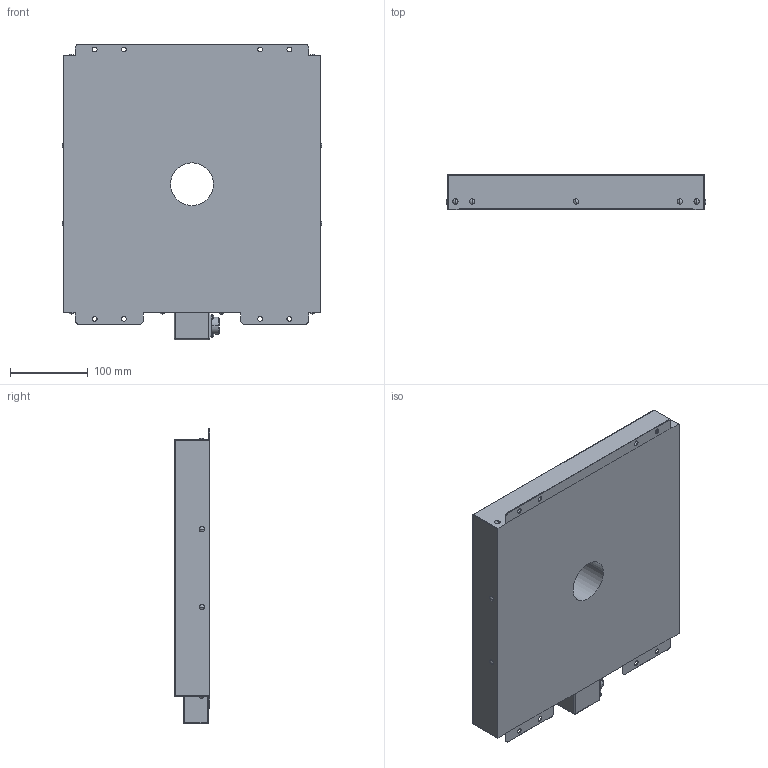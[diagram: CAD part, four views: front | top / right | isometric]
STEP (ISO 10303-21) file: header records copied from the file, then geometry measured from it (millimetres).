
FILE_DESCRIPTION (( 'STEP AP214' ), '1' );
FILE_NAME ('HDSBPA-300x300_-24-55D.STEP', '2023-06-01T06:23:14', ( '' ), ( '' ), 'SwSTEP 2.0', 'SolidWorks 2022', '' );
FILE_SCHEMA (( 'AUTOMOTIVE_DESIGN' ));
Length unit declared in the file: millimetre
Products named in the file (1): HDSBPA-300x300_-24-55D
Bounding box: 333.8 x 45 x 380 mm (x, y, z)
Volume: 4767930.6 mm3; surface area: 301955.3 mm2
Topology: 1 solids, 1 shells, 198 faces, 538 edges, 315 vertices
Faces by surface type: cylinder 98, sphere 54, plane 36, torus 8, cone 2
Entity records: 5802 total; most frequent: DIRECTION 1134, CARTESIAN_POINT 952, ORIENTED_EDGE 922, AXIS2_PLACEMENT_3D 474, EDGE_CURVE 461, VERTEX_POINT 292, CIRCLE 275, EDGE_LOOP 243
